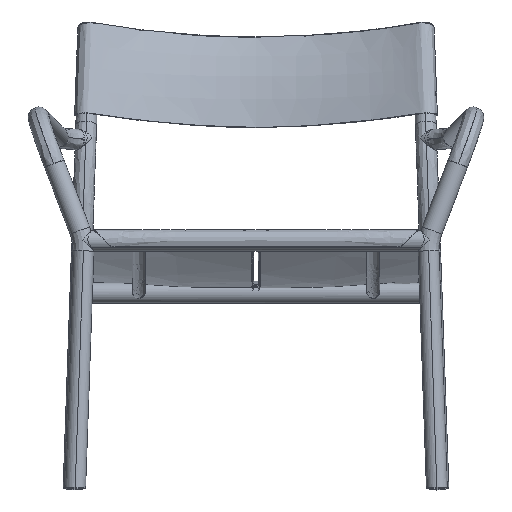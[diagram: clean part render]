
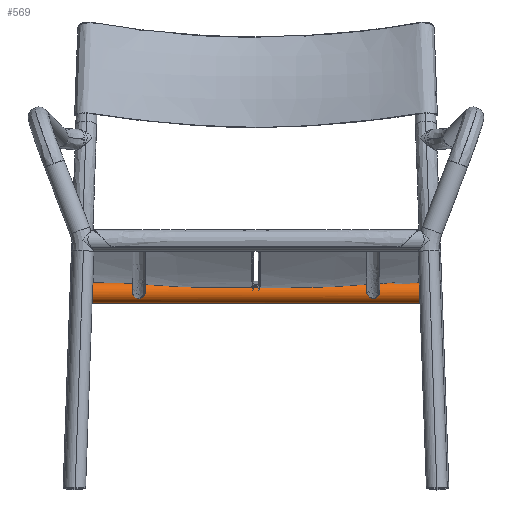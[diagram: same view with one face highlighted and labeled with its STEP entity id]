
A CAD part, front view. The second image highlights one B-rep face of the part: STEP entity #569.
In plain terms, the highlighted cylindrical face has radius 16 mm (diameter 32 mm), a partial arc.
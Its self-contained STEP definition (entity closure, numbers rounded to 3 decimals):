
#569=ADVANCED_FACE('',(#755),#3216,.T.);
#755=FACE_OUTER_BOUND('',#947,.T.);
#947=EDGE_LOOP('',(#1376,#1377,#1378,#1379,#1380,#1381));
#1376=ORIENTED_EDGE('',*,*,#2200,.T.);
#1377=ORIENTED_EDGE('',*,*,#2203,.T.);
#1378=ORIENTED_EDGE('',*,*,#2205,.T.);
#1379=ORIENTED_EDGE('',*,*,#2201,.T.);
#1380=ORIENTED_EDGE('',*,*,#2202,.T.);
#1381=ORIENTED_EDGE('',*,*,#2194,.T.);
#2194=EDGE_CURVE('',#2894,#2892,#2542,.T.);
#2200=EDGE_CURVE('',#2892,#2900,#2602,.T.);
#2201=EDGE_CURVE('',#2902,#2895,#2603,.T.);
#2202=EDGE_CURVE('',#2895,#2894,#2544,.T.);
#2203=EDGE_CURVE('',#2900,#2901,#2545,.T.);
#2205=EDGE_CURVE('',#2901,#2902,#2547,.T.);
#2542=(
BOUNDED_CURVE()
B_SPLINE_CURVE(2,(#7169,#7170,#7171,#7172,#7173),.UNSPECIFIED.,.F.,.F.)
B_SPLINE_CURVE_WITH_KNOTS((3,2,3),(-42.138,-3.113,
0.),.UNSPECIFIED.)
CURVE()
GEOMETRIC_REPRESENTATION_ITEM()
RATIONAL_B_SPLINE_CURVE((1.,0.707,1.,0.995,1.))
REPRESENTATION_ITEM('')
);
#2544=(
BOUNDED_CURVE()
B_SPLINE_CURVE(2,(#7223,#7224,#7225),.UNSPECIFIED.,.F.,.F.)
B_SPLINE_CURVE_WITH_KNOTS((3,3),(0.,31.749),.UNSPECIFIED.)
CURVE()
GEOMETRIC_REPRESENTATION_ITEM()
RATIONAL_B_SPLINE_CURVE((1.,0.772,1.))
REPRESENTATION_ITEM('')
);
#2545=(
BOUNDED_CURVE()
B_SPLINE_CURVE(2,(#7226,#7227,#7228,#7229,#7230),.UNSPECIFIED.,.F.,.F.)
B_SPLINE_CURVE_WITH_KNOTS((3,2,3),(-42.138,-39.025,
0.),.UNSPECIFIED.)
CURVE()
GEOMETRIC_REPRESENTATION_ITEM()
RATIONAL_B_SPLINE_CURVE((1.,0.995,1.,0.707,1.))
REPRESENTATION_ITEM('')
);
#2547=(
BOUNDED_CURVE()
B_SPLINE_CURVE(2,(#7234,#7235,#7236),.UNSPECIFIED.,.F.,.F.)
B_SPLINE_CURVE_WITH_KNOTS((3,3),(-31.749,0.),.UNSPECIFIED.)
CURVE()
GEOMETRIC_REPRESENTATION_ITEM()
RATIONAL_B_SPLINE_CURVE((1.,0.772,1.))
REPRESENTATION_ITEM('')
);
#2602=B_SPLINE_CURVE_WITH_KNOTS('',1,(#7219,#7220),.UNSPECIFIED.,.F.,.F.,
(2,2),(0.,507.538),.UNSPECIFIED.);
#2603=B_SPLINE_CURVE_WITH_KNOTS('',1,(#7221,#7222),.UNSPECIFIED.,.F.,.F.,
(2,2),(0.,509.691),.UNSPECIFIED.);
#2892=VERTEX_POINT('',#7157);
#2894=VERTEX_POINT('',#7159);
#2895=VERTEX_POINT('',#7160);
#2900=VERTEX_POINT('',#7165);
#2901=VERTEX_POINT('',#7166);
#2902=VERTEX_POINT('',#7167);
#3216=CYLINDRICAL_SURFACE('',#3497,16.);
#3497=AXIS2_PLACEMENT_3D('',#7153,#3900,$);
#3900=DIRECTION('',(-1.,0.,0.));
#7153=CARTESIAN_POINT('',(262.01,542.68,300.644));
#7157=CARTESIAN_POINT('',(515.779,542.68,316.644));
#7159=CARTESIAN_POINT('',(532.032,526.974,297.589));
#7160=CARTESIAN_POINT('',(516.855,542.68,284.644));
#7165=CARTESIAN_POINT('',(8.241,542.68,316.644));
#7166=CARTESIAN_POINT('',(-8.013,526.974,297.589));
#7167=CARTESIAN_POINT('',(7.164,542.68,284.644));
#7169=CARTESIAN_POINT('',(532.032,526.974,297.589));
#7170=CARTESIAN_POINT('',(515.474,523.919,313.295));
#7171=CARTESIAN_POINT('',(515.474,539.625,316.35));
#7172=CARTESIAN_POINT('',(515.474,541.138,316.644));
#7173=CARTESIAN_POINT('',(515.779,542.68,316.644));
#7219=CARTESIAN_POINT('',(515.779,542.68,316.644));
#7220=CARTESIAN_POINT('',(8.241,542.68,316.644));
#7221=CARTESIAN_POINT('',(7.164,542.68,284.644));
#7222=CARTESIAN_POINT('',(516.855,542.68,284.644));
#7223=CARTESIAN_POINT('',(516.855,542.68,284.644));
#7224=CARTESIAN_POINT('',(519.288,529.492,284.644));
#7225=CARTESIAN_POINT('',(532.032,526.974,297.589));
#7226=CARTESIAN_POINT('',(8.241,542.68,316.644));
#7227=CARTESIAN_POINT('',(8.545,541.138,316.644));
#7228=CARTESIAN_POINT('',(8.545,539.625,316.35));
#7229=CARTESIAN_POINT('',(8.545,523.919,313.295));
#7230=CARTESIAN_POINT('',(-8.013,526.974,297.589));
#7234=CARTESIAN_POINT('',(-8.013,526.974,297.589));
#7235=CARTESIAN_POINT('',(4.731,529.492,284.644));
#7236=CARTESIAN_POINT('',(7.164,542.68,284.644));
